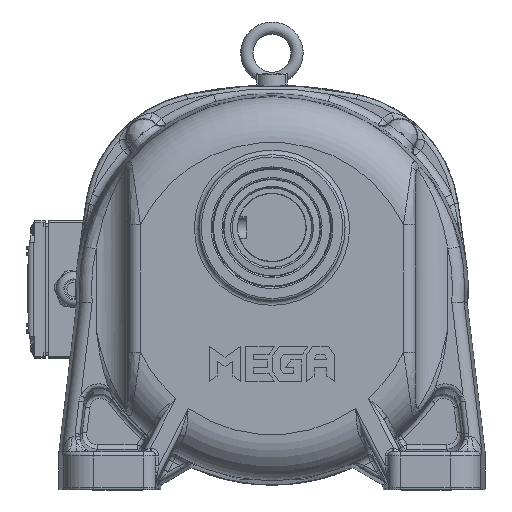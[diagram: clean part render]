
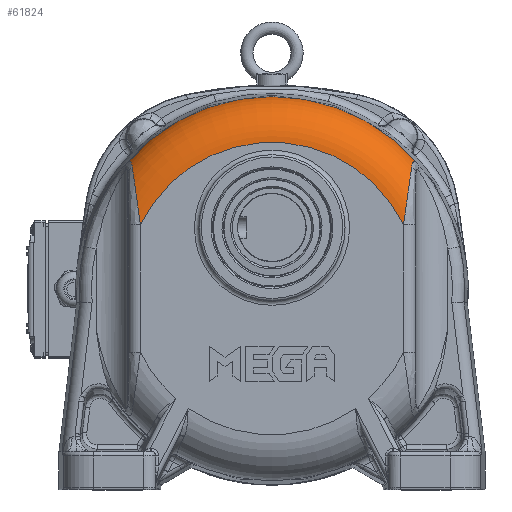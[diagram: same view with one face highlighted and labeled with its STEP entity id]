
A CAD part, top view. The second image highlights one B-rep face of the part: STEP entity #61824.
In plain terms, the highlighted toroidal (fillet/blend) face has major radius 96.083 mm and minor radius 30 mm.
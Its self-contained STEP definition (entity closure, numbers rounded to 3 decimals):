
#1024=TOROIDAL_SURFACE('',#67727,96.083,30.);
#12089=FACE_OUTER_BOUND('',#15823,.T.);
#15823=EDGE_LOOP('',(#51812,#51813,#51814,#51815,#51816,#51817));
#19263=CIRCLE('',#67235,96.083);
#19429=CIRCLE('',#67624,126.073);
#22124=B_SPLINE_CURVE_WITH_KNOTS('',3,(#136428,#136429,#136430,#136431,
#136432,#136433),.UNSPECIFIED.,.F.,.F.,(4,1,1,4),(-3.592,-3.079,
-2.053,0.),.UNSPECIFIED.);
#22126=B_SPLINE_CURVE_WITH_KNOTS('',3,(#136477,#136478,#136479,#136480,
#136481,#136482,#136483),.UNSPECIFIED.,.F.,.F.,(4,1,1,1,4),(-1.211,
-0.865,-0.692,-0.346,0.),
 .UNSPECIFIED.);
#22129=B_SPLINE_CURVE_WITH_KNOTS('',3,(#136558,#136559,#136560,#136561,
#136562,#136563),.UNSPECIFIED.,.F.,.F.,(4,1,1,4),(-1.212,-0.692,
-0.346,0.),.UNSPECIFIED.);
#22130=B_SPLINE_CURVE_WITH_KNOTS('',3,(#136564,#136565,#136566,#136567,
#136568,#136569,#136570),.UNSPECIFIED.,.F.,.F.,(4,1,1,1,4),(-3.594,
-2.054,-1.027,-0.513,0.),
 .UNSPECIFIED.);
#26702=VERTEX_POINT('',#130470);
#26703=VERTEX_POINT('',#130472);
#27062=VERTEX_POINT('',#135755);
#27063=VERTEX_POINT('',#135766);
#27143=VERTEX_POINT('',#136426);
#27145=VERTEX_POINT('',#136557);
#34794=EDGE_CURVE('',#26703,#26702,#19263,.T.);
#35400=EDGE_CURVE('',#27062,#27063,#19429,.F.);
#35557=EDGE_CURVE('',#27143,#26702,#22124,.T.);
#35560=EDGE_CURVE('',#27063,#27143,#22126,.T.);
#35564=EDGE_CURVE('',#27145,#27062,#22129,.T.);
#35565=EDGE_CURVE('',#26703,#27145,#22130,.T.);
#51812=ORIENTED_EDGE('',*,*,#35557,.F.);
#51813=ORIENTED_EDGE('',*,*,#35560,.F.);
#51814=ORIENTED_EDGE('',*,*,#35400,.F.);
#51815=ORIENTED_EDGE('',*,*,#35564,.F.);
#51816=ORIENTED_EDGE('',*,*,#35565,.F.);
#51817=ORIENTED_EDGE('',*,*,#34794,.T.);
#61824=ADVANCED_FACE('',(#12089),#1024,.T.);
#67235=AXIS2_PLACEMENT_3D('',#130473,#80472,#80473);
#67624=AXIS2_PLACEMENT_3D('',#135767,#81446,#81447);
#67727=AXIS2_PLACEMENT_3D('',#136556,#81770,#81771);
#80472=DIRECTION('center_axis',(0.,0.,-1.));
#80473=DIRECTION('ref_axis',(-1.,0.,0.));
#81446=DIRECTION('center_axis',(0.,0.,1.));
#81447=DIRECTION('ref_axis',(-1.,0.,0.));
#81770=DIRECTION('center_axis',(0.,0.,-1.));
#81771=DIRECTION('ref_axis',(-1.,0.,0.));
#130470=CARTESIAN_POINT('',(93.859,38.74,99.504));
#130472=CARTESIAN_POINT('',(-79.057,38.74,99.504));
#130473=CARTESIAN_POINT('Origin',(7.401,-3.177,99.504));
#135755=CARTESIAN_POINT('',(-87.607,79.695,70.29));
#135766=CARTESIAN_POINT('',(102.409,79.695,70.29));
#135767=CARTESIAN_POINT('Origin',(7.401,-3.177,70.29));
#136426=CARTESIAN_POINT('',(99.188,76.679,85.178));
#136428=CARTESIAN_POINT('Ctrl Pts',(99.188,76.679,85.178));
#136429=CARTESIAN_POINT('Ctrl Pts',(98.987,75.303,86.9));
#136430=CARTESIAN_POINT('Ctrl Pts',(98.314,70.605,91.517));
#136431=CARTESIAN_POINT('Ctrl Pts',(96.502,57.73,98.314));
#136432=CARTESIAN_POINT('Ctrl Pts',(94.835,46.056,99.504));
#136433=CARTESIAN_POINT('Ctrl Pts',(93.859,38.74,99.504));
#136477=CARTESIAN_POINT('Ctrl Pts',(102.409,79.695,70.29));
#136478=CARTESIAN_POINT('Ctrl Pts',(101.955,80.162,71.625));
#136479=CARTESIAN_POINT('Ctrl Pts',(101.299,80.608,73.804));
#136480=CARTESIAN_POINT('Ctrl Pts',(100.37,80.43,77.647));
#136481=CARTESIAN_POINT('Ctrl Pts',(99.663,79.287,81.429));
#136482=CARTESIAN_POINT('Ctrl Pts',(99.324,77.608,84.016));
#136483=CARTESIAN_POINT('Ctrl Pts',(99.188,76.679,85.178));
#136556=CARTESIAN_POINT('Origin',(7.401,-3.177,69.504));
#136557=CARTESIAN_POINT('',(-84.386,76.679,85.178));
#136558=CARTESIAN_POINT('Ctrl Pts',(-84.386,76.679,
85.178));
#136559=CARTESIAN_POINT('Ctrl Pts',(-84.59,78.072,
83.435));
#136560=CARTESIAN_POINT('Ctrl Pts',(-85.058,80.039,
80.034));
#136561=CARTESIAN_POINT('Ctrl Pts',(-86.268,80.773,
74.553));
#136562=CARTESIAN_POINT('Ctrl Pts',(-87.153,80.162,71.625));
#136563=CARTESIAN_POINT('Ctrl Pts',(-87.607,79.695,
70.29));
#136564=CARTESIAN_POINT('Ctrl Pts',(-79.057,38.74,
99.504));
#136565=CARTESIAN_POINT('Ctrl Pts',(-79.79,44.23,
99.504));
#136566=CARTESIAN_POINT('Ctrl Pts',(-81.123,53.695,
98.757));
#136567=CARTESIAN_POINT('Ctrl Pts',(-82.742,65.139,
94.633));
#136568=CARTESIAN_POINT('Ctrl Pts',(-83.737,72.171,
89.984));
#136569=CARTESIAN_POINT('Ctrl Pts',(-84.185,75.302,
86.901));
#136570=CARTESIAN_POINT('Ctrl Pts',(-84.386,76.679,
85.178));
